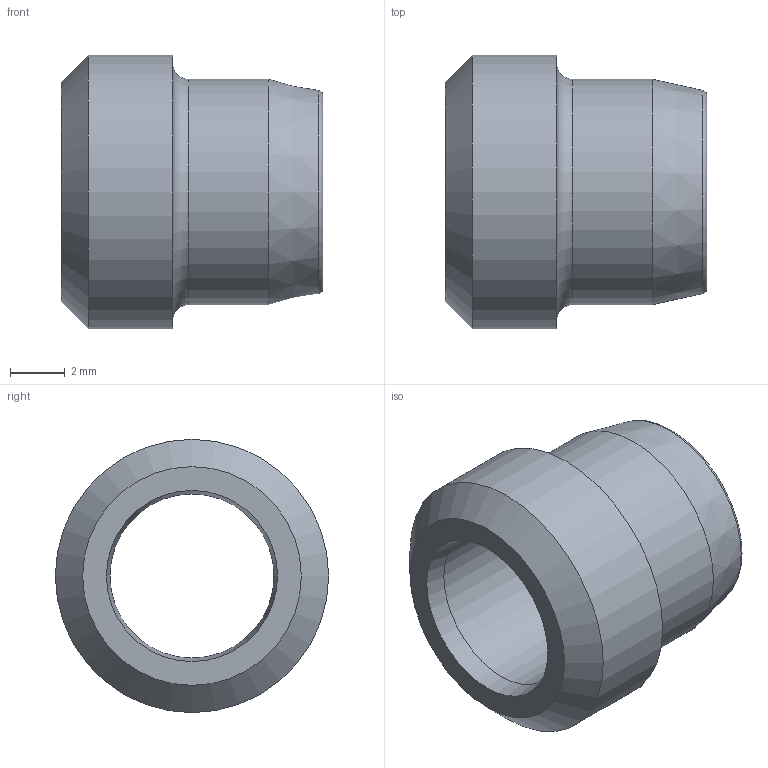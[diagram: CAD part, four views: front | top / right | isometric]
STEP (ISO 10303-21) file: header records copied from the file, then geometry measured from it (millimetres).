
FILE_DESCRIPTION( ( 'Unknown' ), '1' );
FILE_NAME( 'C:/Users/p.nanko/Desktop/3D SR/D06L_S.stp', 'Unknown', ( 'Peter Nanko' ), ( 'Armaturen Arndt' ), 'PSStep 14.0', 'Solid Edge ST4', ' ' );
FILE_SCHEMA( ( 'AUTOMOTIVE_DESIGN { 1 0 10303 214 1 1 1 1 }' ) );
Length unit declared in the file: millimetre
Products named in the file (1): 1001ESTERNO#0
Bounding box: 9.57 x 10 x 10 mm (x, y, z)
Volume: 303.5 mm3; surface area: 521.4 mm2
Topology: 1 solids, 1 shells, 15 faces, 31 edges, 20 vertices
Faces by surface type: cone 4, plane 4, torus 3, cylinder 3, bspline 1
Full cylindrical faces by diameter (mm): 6 x1, 8.25 x1, 10 x1
Entity records: 467 total; most frequent: CARTESIAN_POINT 73, DIRECTION 60, AXIS2_PLACEMENT_3D 30, EDGE_LOOP 30, ORIENTED_EDGE 30, FACE_OUTER_BOUND 22, STYLED_ITEM 15, PRESENTATION_STYLE_ASSIGNMENT 15
